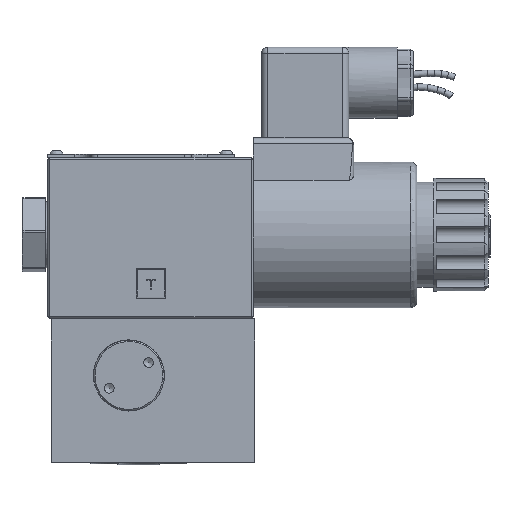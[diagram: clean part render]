
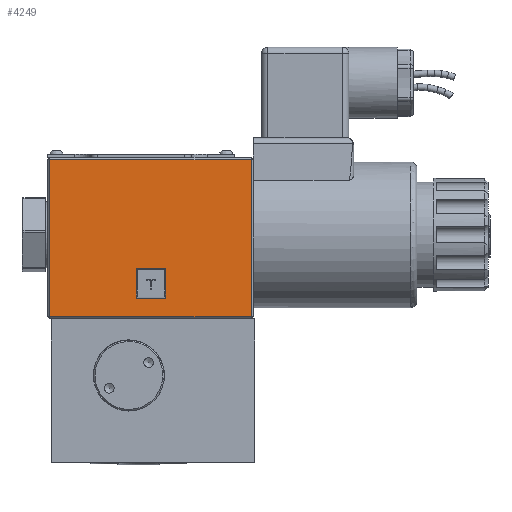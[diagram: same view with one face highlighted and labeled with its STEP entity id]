
A CAD part, front view. The second image highlights one B-rep face of the part: STEP entity #4249.
In plain terms, the highlighted planar face has unit normal (0, -1, 0).
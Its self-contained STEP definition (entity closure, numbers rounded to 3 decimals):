
#3038=LINE('',#39684,#3613);
#3039=LINE('',#39687,#3614);
#3040=LINE('',#39689,#3615);
#3041=LINE('',#39691,#3616);
#3042=LINE('',#39692,#3617);
#3043=LINE('',#39695,#3618);
#3044=LINE('',#39697,#3619);
#3045=LINE('',#39699,#3620);
#3613=VECTOR('',#14435,1.);
#3614=VECTOR('',#14436,1.);
#3615=VECTOR('',#14437,1.);
#3616=VECTOR('',#14438,1.);
#3617=VECTOR('',#14439,1.);
#3618=VECTOR('',#14440,1.);
#3619=VECTOR('',#14441,1.);
#3620=VECTOR('',#14442,1.);
#4249=ADVANCED_FACE('',(#5039,#5040),#4668,.T.);
#4668=PLANE('',#12201);
#5039=FACE_BOUND('',#5696,.T.);
#5040=FACE_BOUND('',#5697,.T.);
#5696=EDGE_LOOP('',(#7674,#7675,#7676,#7677));
#5697=EDGE_LOOP('',(#7678,#7679,#7680,#7681));
#7674=ORIENTED_EDGE('',*,*,#10502,.T.);
#7675=ORIENTED_EDGE('',*,*,#10503,.T.);
#7676=ORIENTED_EDGE('',*,*,#10504,.T.);
#7677=ORIENTED_EDGE('',*,*,#10505,.T.);
#7678=ORIENTED_EDGE('',*,*,#10506,.T.);
#7679=ORIENTED_EDGE('',*,*,#10507,.T.);
#7680=ORIENTED_EDGE('',*,*,#10508,.T.);
#7681=ORIENTED_EDGE('',*,*,#10509,.T.);
#9314=VERTEX_POINT('',#39685);
#9315=VERTEX_POINT('',#39686);
#9316=VERTEX_POINT('',#39688);
#9317=VERTEX_POINT('',#39690);
#9318=VERTEX_POINT('',#39693);
#9319=VERTEX_POINT('',#39694);
#9320=VERTEX_POINT('',#39696);
#9321=VERTEX_POINT('',#39698);
#10502=EDGE_CURVE('',#9314,#9315,#3038,.T.);
#10503=EDGE_CURVE('',#9315,#9316,#3039,.T.);
#10504=EDGE_CURVE('',#9316,#9317,#3040,.T.);
#10505=EDGE_CURVE('',#9317,#9314,#3041,.T.);
#10506=EDGE_CURVE('',#9318,#9319,#3042,.T.);
#10507=EDGE_CURVE('',#9319,#9320,#3043,.T.);
#10508=EDGE_CURVE('',#9320,#9321,#3044,.T.);
#10509=EDGE_CURVE('',#9321,#9318,#3045,.T.);
#12201=AXIS2_PLACEMENT_3D('',#39700,#14443,#14444);
#14435=DIRECTION('',(0.,0.,1.));
#14436=DIRECTION('',(-1.,0.,0.));
#14437=DIRECTION('',(0.,0.,-1.));
#14438=DIRECTION('',(1.,0.,0.));
#14439=DIRECTION('',(1.,0.,0.));
#14440=DIRECTION('',(0.,0.,-1.));
#14441=DIRECTION('',(-1.,0.,0.));
#14442=DIRECTION('',(0.,0.,1.));
#14443=DIRECTION('',(0.,-1.,0.));
#14444=DIRECTION('',(0.,0.,1.));
#39684=CARTESIAN_POINT('',(325.43,45.174,17.5));
#39685=CARTESIAN_POINT('',(325.43,45.174,18.2));
#39686=CARTESIAN_POINT('',(325.43,45.174,66.8));
#39687=CARTESIAN_POINT('',(262.43,45.174,66.8));
#39688=CARTESIAN_POINT('',(263.13,45.174,66.8));
#39689=CARTESIAN_POINT('',(263.13,45.174,17.5));
#39690=CARTESIAN_POINT('',(263.13,45.174,18.2));
#39691=CARTESIAN_POINT('',(246.43,45.174,18.2));
#39692=CARTESIAN_POINT('',(294.43,45.174,33.059));
#39693=CARTESIAN_POINT('',(289.871,45.174,33.059));
#39694=CARTESIAN_POINT('',(298.989,45.174,33.059));
#39695=CARTESIAN_POINT('',(298.989,45.174,42.5));
#39696=CARTESIAN_POINT('',(298.989,45.174,23.941));
#39697=CARTESIAN_POINT('',(294.43,45.174,23.941));
#39698=CARTESIAN_POINT('',(289.871,45.174,23.941));
#39699=CARTESIAN_POINT('',(289.871,45.174,42.5));
#39700=CARTESIAN_POINT('',(246.43,45.174,17.5));
